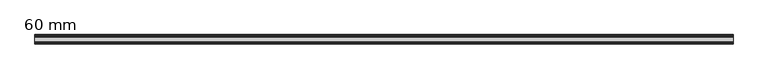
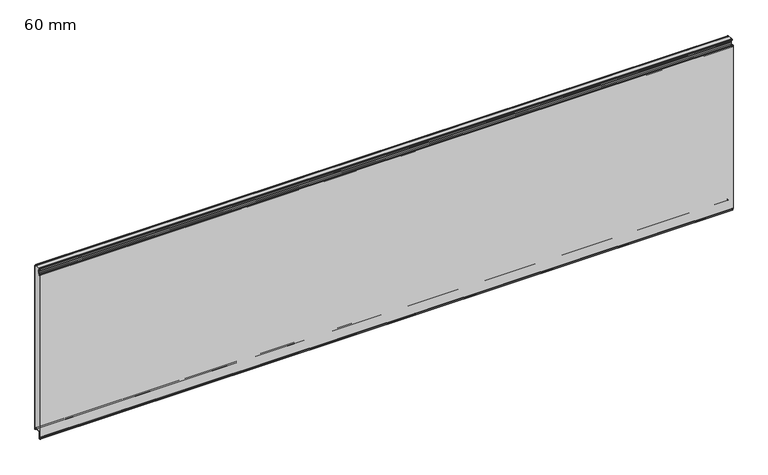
"""IFC4 building model written with IfcOpenShell, lengths in millimetres: plate geometry, HIANSA PANEL - H20.F05.004-HFM-PANELES DE FACHADA HOR - PANEL LISO - Panel de Muro Cortina : 60 mm."""

from ifc_helpers import new_model, si_unit, point, frame, frame_2d, origin, place, context, project, spatial, polyline, circle_curve, trimmed, segment, composite_curve, outline, extrude, source, transform, mapped, element, save


def plate_60_mm_d0acd0f5(model_context):
    return source(origin(), model_context, "Body", "SweptSolid", [
        extrude(outline(polyline([(-43.7988607, 1122.7800953), (-43.0080811, 1123.2810466), (-13.7002601, 1123.2810466), (-12.8994274, 1122.7800953), (-43.7988607, 1122.7800953)])), frame((-2200.0, 0.0, 0.0), z_axis=(1.0, 0.0, 0.0), x_axis=(0.0, 1.0, 0.0)), (0.0, 0.0, 1.0), 4400.0),
        extrude(outline(polyline([(-43.772834, 25.3210467), (-12.920579, 25.3210467), (-13.7002597, 24.8210465), (-43.011032, 24.8210465), (-43.772834, 25.3210467)])), frame((-2200.0, 0.0, 0.0), z_axis=(1.0, 0.0, 0.0), x_axis=(0.0, 1.0, 0.0)), (0.0, 0.0, 1.0), 4400.0),
        extrude(outline(composite_curve([segment(polyline([(-59.9990488, 1086.1667807), (-59.3593999, 1088.7253764)]), True, "CONTINUOUS"), segment(trimmed(circle_curve(frame_2d((-57.5161291, 1088.2645587)), 1.9), [point((-59.3593999, 1088.7253764))], [point((-57.5161291, 1090.1645587))], False, "CARTESIAN"), True, "CONTINUOUS"), segment(polyline([(-57.5161291, 1090.1645587), (-55.3767084, 1090.1645587)]), True, "CONTINUOUS"), segment(trimmed(circle_curve(frame_2d((-55.3767084, 1089.1645587)), 1.0), [point((-55.3767084, 1090.1645587))], [point((-54.3767084, 1089.1645587))], False, "CARTESIAN"), True, "CONTINUOUS"), segment(polyline([(-54.3767084, 1089.1645587), (-54.3767084, 1079.2490488)]), True, "CONTINUOUS"), segment(trimmed(circle_curve(frame_2d((-53.3767084, 1079.2490488)), 1.0), [point((-54.3767084, 1079.2490488))], [point((-53.3767084, 1078.2490488))], True, "CARTESIAN"), True, "CONTINUOUS"), segment(polyline([(-53.3767084, 1078.2490488), (-49.1267084, 1078.2490488)]), True, "CONTINUOUS"), segment(trimmed(circle_curve(frame_2d((-49.1267084, 1079.2490488)), 1.0), [point((-49.1267084, 1078.2490488))], [point((-48.1267084, 1079.2490488))], True, "CARTESIAN"), True, "CONTINUOUS"), segment(polyline([(-48.1267084, 1079.2490488), (-48.1267084, 1082.1003519)]), True, "CONTINUOUS"), segment(trimmed(circle_curve(frame_2d((-46.1267084, 1082.1003519)), 2.0), [point((-48.1267084, 1082.1003519))], [point((-47.2738613, 1083.738656))], False, "CARTESIAN"), True, "CONTINUOUS"), segment(polyline([(-47.2738613, 1083.738656), (-41.2163437, 1087.9801754)]), True, "CONTINUOUS"), segment(trimmed(circle_curve(frame_2d((-42.0767084, 1089.2089035)), 1.5), [point((-41.2163437, 1087.9801754))], [point((-40.5767084, 1089.2089035))], True, "CARTESIAN"), True, "CONTINUOUS"), segment(polyline([(-40.5767084, 1089.2089035), (-40.5767084, 1098.4402031), (-39.6767084, 1099.9990488), (-40.5767084, 1101.5578945), (-40.5767084, 1110.7891941)]), True, "CONTINUOUS"), segment(trimmed(circle_curve(frame_2d((-42.0767084, 1110.7891941)), 1.5), [point((-40.5767084, 1110.7891941))], [point((-41.2163437, 1112.0179221))], True, "CARTESIAN"), True, "CONTINUOUS"), segment(polyline([(-41.2163437, 1112.0179221), (-47.2738613, 1116.2594416)]), True, "CONTINUOUS"), segment(trimmed(circle_curve(frame_2d((-46.1267084, 1117.8977457)), 2.0), [point((-47.2738613, 1116.2594416))], [point((-48.1267084, 1117.8977457))], False, "CARTESIAN"), True, "CONTINUOUS"), segment(polyline([(-48.1267084, 1117.8977457), (-48.1267084, 1121.2800953)]), True, "CONTINUOUS"), segment(trimmed(circle_curve(frame_2d((-46.1267084, 1121.2800953)), 2.0), [point((-48.1267084, 1121.2800953))], [point((-46.1267084, 1123.2800953))], False, "CARTESIAN"), True, "CONTINUOUS"), segment(polyline([(-46.1267084, 1123.2800953), (-43.0095828, 1123.2800953), (-43.7988607, 1122.7800953), (-46.1267084, 1122.7800953)]), True, "CONTINUOUS"), segment(trimmed(circle_curve(frame_2d((-46.1267084, 1121.2800953)), 1.5), [point((-46.1267084, 1122.7800953))], [point((-47.6267084, 1121.2800953))], True, "CARTESIAN"), True, "CONTINUOUS"), segment(polyline([(-47.6267084, 1121.2800953), (-47.6267084, 1117.8977457)]), True, "CONTINUOUS"), segment(trimmed(circle_curve(frame_2d((-46.1267084, 1117.8977457)), 1.5), [point((-47.6267084, 1117.8977457))], [point((-46.987073, 1116.6690176))], True, "CARTESIAN"), True, "CONTINUOUS"), segment(polyline([(-46.987073, 1116.6690176), (-40.9295555, 1112.4274982)]), True, "CONTINUOUS"), segment(trimmed(circle_curve(frame_2d((-42.0767084, 1110.7891941)), 2.0), [point((-40.9295555, 1112.4274982))], [point((-40.0767084, 1110.7891941))], False, "CARTESIAN"), True, "CONTINUOUS"), segment(polyline([(-40.0767084, 1110.7891941), (-40.0767084, 1101.6918691), (-39.3880333, 1100.4990488)]), True, "CONTINUOUS"), segment(trimmed(circle_curve(frame_2d((-40.2540587, 1099.9990488)), 1.0), [point((-39.3880333, 1100.4990488))], [point((-39.3880333, 1099.4990488))], False, "CARTESIAN"), True, "CONTINUOUS"), segment(polyline([(-39.3880333, 1099.4990488), (-40.0767084, 1098.3062285), (-40.0767084, 1089.2089035)]), True, "CONTINUOUS"), segment(trimmed(circle_curve(frame_2d((-42.0767084, 1089.2089035)), 2.0), [point((-40.0767084, 1089.2089035))], [point((-40.9295555, 1087.5705994))], False, "CARTESIAN"), True, "CONTINUOUS"), segment(polyline([(-40.9295555, 1087.5705994), (-46.987073, 1083.32908)]), True, "CONTINUOUS"), segment(trimmed(circle_curve(frame_2d((-46.1267084, 1082.1003519)), 1.5), [point((-46.987073, 1083.32908))], [point((-47.6267084, 1082.1003519))], True, "CARTESIAN"), True, "CONTINUOUS"), segment(polyline([(-47.6267084, 1082.1003519), (-47.6267084, 1079.2490488)]), True, "CONTINUOUS"), segment(trimmed(circle_curve(frame_2d((-49.1267084, 1079.2490488)), 1.5), [point((-47.6267084, 1079.2490488))], [point((-49.1267084, 1077.7490488))], False, "CARTESIAN"), True, "CONTINUOUS"), segment(polyline([(-49.1267084, 1077.7490488), (-53.3767084, 1077.7490488)]), True, "CONTINUOUS"), segment(trimmed(circle_curve(frame_2d((-53.3767084, 1079.2490488)), 1.5), [point((-53.3767084, 1077.7490488))], [point((-54.8767084, 1079.2490488))], False, "CARTESIAN"), True, "CONTINUOUS"), segment(polyline([(-54.8767084, 1079.2490488), (-54.8767084, 1089.6645587), (-57.5161291, 1089.6645587)]), True, "CONTINUOUS"), segment(trimmed(circle_curve(frame_2d((-57.5161291, 1088.2645587)), 1.4), [point((-57.5161291, 1089.6645587))], [point((-58.8743286, 1088.6041086))], True, "CARTESIAN"), True, "CONTINUOUS"), segment(polyline([(-58.8743286, 1088.6041086), (-59.4990488, 1086.1052279), (-59.4990488, -5.7761105), (-58.8741312, -8.2757808)]), True, "CONTINUOUS"), segment(trimmed(circle_curve(frame_2d((-57.5169431, -7.9364838)), 1.3989577), [point((-58.8741312, -8.2757808))], [point((-57.5169431, -9.3354415))], True, "CARTESIAN"), True, "CONTINUOUS"), segment(polyline([(-57.5169431, -9.3354415), (-55.1267084, -9.3354413)]), True, "CONTINUOUS"), segment(trimmed(circle_curve(frame_2d((-55.1267084, -10.8354413)), 1.5), [point((-55.1267084, -9.3354413))], [point((-53.6267084, -10.8354413))], False, "CARTESIAN"), True, "CONTINUOUS"), segment(polyline([(-53.6267084, -10.8354413), (-53.6267084, -20.7509512), (-48.8767084, -20.7509512), (-48.8767084, 22.7800953)]), True, "CONTINUOUS"), segment(trimmed(circle_curve(frame_2d((-46.3367084, 22.7800953)), 2.54), [point((-48.8767084, 22.7800953))], [point((-46.3367084, 25.3200953))], False, "CARTESIAN"), True, "CONTINUOUS"), segment(polyline([(-46.3367084, 25.3200953), (-43.7713844, 25.3200953), (-43.0095828, 24.8200953), (-46.3367084, 24.8200953)]), True, "CONTINUOUS"), segment(trimmed(circle_curve(frame_2d((-46.3367084, 22.7800953)), 2.04), [point((-46.3367084, 24.8200953))], [point((-48.3767084, 22.7800953))], True, "CARTESIAN"), True, "CONTINUOUS"), segment(polyline([(-48.3767084, 22.7800953), (-48.3767084, -20.2509512)]), True, "CONTINUOUS"), segment(trimmed(circle_curve(frame_2d((-49.3767084, -20.2509512)), 1.0), [point((-48.3767084, -20.2509512))], [point((-49.3767084, -21.2509512))], False, "CARTESIAN"), True, "CONTINUOUS"), segment(polyline([(-49.3767084, -21.2509512), (-53.1267084, -21.2509512)]), True, "CONTINUOUS"), segment(trimmed(circle_curve(frame_2d((-53.1267084, -20.2509512)), 1.0), [point((-53.1267084, -21.2509512))], [point((-54.1267084, -20.2509512))], False, "CARTESIAN"), True, "CONTINUOUS"), segment(polyline([(-54.1267084, -20.2509512), (-54.1267084, -10.8354413)]), True, "CONTINUOUS"), segment(trimmed(circle_curve(frame_2d((-55.1267084, -10.8354413)), 1.0), [point((-54.1267084, -10.8354413))], [point((-55.1267084, -9.8354413))], True, "CARTESIAN"), True, "CONTINUOUS"), segment(polyline([(-55.1267084, -9.8354413), (-57.5161291, -9.8354413)]), True, "CONTINUOUS"), segment(trimmed(circle_curve(frame_2d((-57.5161291, -7.9354413)), 1.9), [point((-57.5161291, -9.8354413))], [point((-59.3593999, -8.396259))], False, "CARTESIAN"), True, "CONTINUOUS"), segment(polyline([(-59.3593999, -8.396259), (-59.9990488, -5.8376633), (-59.9990488, 1086.1667807)]), True, "CONTINUOUS")], self_intersect=False)), frame((-2200.0, 0.0, 0.0), z_axis=(1.0, 0.0, 0.0), x_axis=(0.0, 1.0, 0.0)), (0.0, 0.0, 1.0), 4400.0),
        extrude(outline(composite_curve([segment(polyline([(-59.4927405, -5.8041988), (-59.4927405, 1086.1352189), (-58.8752803, 1088.6050599)]), True, "CONTINUOUS"), segment(trimmed(circle_curve(frame_2d((-57.5170808, 1088.26551)), 1.4), [point((-58.8752803, 1088.6050599))], [point((-57.5170808, 1089.66551))], False, "CARTESIAN"), True, "CONTINUOUS"), segment(polyline([(-57.5170808, 1089.66551), (-54.8776601, 1089.66551), (-54.8776601, 1079.2500001)]), True, "CONTINUOUS"), segment(trimmed(circle_curve(frame_2d((-53.3776601, 1079.2500001)), 1.5), [point((-54.8776601, 1079.2500001))], [point((-53.3776601, 1077.7500001))], True, "CARTESIAN"), True, "CONTINUOUS"), segment(polyline([(-53.3776601, 1077.7500001), (-49.1276601, 1077.7500001)]), True, "CONTINUOUS"), segment(trimmed(circle_curve(frame_2d((-49.1276601, 1079.2500001)), 1.5), [point((-49.1276601, 1077.7500001))], [point((-47.6276601, 1079.2500001))], True, "CARTESIAN"), True, "CONTINUOUS"), segment(polyline([(-47.6276601, 1079.2500001), (-47.6276601, 1082.1013032)]), True, "CONTINUOUS"), segment(trimmed(circle_curve(frame_2d((-46.1276601, 1082.1013032)), 1.5), [point((-47.6276601, 1082.1013032))], [point((-46.9880247, 1083.3300313))], False, "CARTESIAN"), True, "CONTINUOUS"), segment(polyline([(-46.9880247, 1083.3300313), (-40.9305072, 1087.5715507)]), True, "CONTINUOUS"), segment(trimmed(circle_curve(frame_2d((-42.0776601, 1089.2098548)), 2.0), [point((-40.9305072, 1087.5715507))], [point((-40.0776601, 1089.2098548))], True, "CARTESIAN"), True, "CONTINUOUS"), segment(polyline([(-40.0776601, 1089.2098548), (-40.0776601, 1098.3071798), (-39.3889849, 1099.5000001)]), True, "CONTINUOUS"), segment(trimmed(circle_curve(frame_2d((-40.2550103, 1100.0000001)), 1.0), [point((-39.3889849, 1099.5000001))], [point((-39.3889849, 1100.5000001))], True, "CARTESIAN"), True, "CONTINUOUS"), segment(polyline([(-39.3889849, 1100.5000001), (-40.0776601, 1101.6928204), (-40.0776601, 1110.7901454)]), True, "CONTINUOUS"), segment(trimmed(circle_curve(frame_2d((-42.0776601, 1110.7901454)), 2.0), [point((-40.0776601, 1110.7901454))], [point((-40.9305072, 1112.4284495))], True, "CARTESIAN"), True, "CONTINUOUS"), segment(polyline([(-40.9305072, 1112.4284495), (-46.9880247, 1116.6699689)]), True, "CONTINUOUS"), segment(trimmed(circle_curve(frame_2d((-46.1276601, 1117.898697)), 1.5), [point((-46.9880247, 1116.6699689))], [point((-47.6276601, 1117.898697))], False, "CARTESIAN"), True, "CONTINUOUS"), segment(polyline([(-47.6276601, 1117.898697), (-47.6276601, 1121.2810466)]), True, "CONTINUOUS"), segment(trimmed(circle_curve(frame_2d((-46.1276601, 1121.2810466)), 1.5), [point((-47.6276601, 1121.2810466))], [point((-46.1276601, 1122.7810466))], False, "CARTESIAN"), True, "CONTINUOUS"), segment(polyline([(-46.1276601, 1122.7810466), (-7.7500005, 1122.7810466)]), True, "CONTINUOUS"), segment(trimmed(circle_curve(frame_2d((-7.7500005, 1121.7810466)), 1.0), [point((-7.7500005, 1122.7810466))], [point((-6.7500005, 1121.7810466))], False, "CARTESIAN"), True, "CONTINUOUS"), segment(polyline([(-6.7500005, 1121.7810466), (-6.7500005, 1115.631732)]), True, "CONTINUOUS"), segment(trimmed(circle_curve(frame_2d((-4.7460005, 1115.631732)), 2.004), [point((-6.7500005, 1115.631732))], [point((-4.7460005, 1113.627732))], True, "CARTESIAN"), True, "CONTINUOUS"), segment(polyline([(-4.7460005, 1113.627732), (-1.5, 1113.627732)]), True, "CONTINUOUS"), segment(trimmed(circle_curve(frame_2d((-1.5, 1112.627732)), 1.0), [point((-1.5, 1113.627732))], [point((-0.5, 1112.627732))], False, "CARTESIAN"), True, "CONTINUOUS"), segment(polyline([(-0.5, 1112.627732), (-0.5, 1087.7488722), (-1.5000005, 1084.7488708), (-1.5000005, 1044.5865932), (-0.5000005, 1041.5865932), (-0.5000005, 996.7488708), (-1.5000005, 993.7488708), (-1.5000005, 953.5865932), (-0.5000005, 950.5865932), (-0.5000005, 905.7488708), (-1.5000005, 902.7488708), (-1.5000005, 862.5865932), (-0.5000005, 859.5865932), (-0.5000005, 814.7488708), (-1.5000005, 811.7488708), (-1.5000005, 771.5865932), (-0.5000005, 768.5865932), (-0.5000005, 723.7488708), (-1.5000005, 720.7488708), (-1.5000005, 680.5865932), (-0.5000005, 677.5865932), (-0.5000005, 632.7488708), (-1.5000005, 629.7488708), (-1.5000005, 589.5865932), (-0.5000005, 586.5865932), (-0.5000005, 541.7488708), (-1.5000005, 538.7488708), (-1.5000005, 498.5865932), (-0.5000005, 495.5865932), (-0.5000005, 450.7488708), (-1.5000005, 447.7488708), (-1.5000005, 407.5865932), (-0.5000005, 404.5865932), (-0.5000005, 359.7488708), (-1.5000005, 356.7488708), (-1.5000005, 316.5865932), (-0.5000005, 313.5865932), (-0.5000005, 268.7488708), (-1.5000005, 265.7488708), (-1.5000005, 225.5865932), (-0.5000005, 222.5865932), (-0.5000005, 177.7488708), (-1.5000005, 174.7488708), (-1.5000005, 134.5865932), (-0.5000005, 131.5865932), (-0.5000005, 86.7488708), (-1.5000005, 83.7488708), (-1.5000005, 43.5865932), (-0.5, 40.5865932), (-0.5, 15.6677319)]), True, "CONTINUOUS"), segment(trimmed(circle_curve(frame_2d((-1.4999997, 15.6677319)), 0.9999997), [point((-0.5, 15.6677319))], [point((-1.4999977, 14.6677322))], False, "CARTESIAN"), True, "CONTINUOUS"), segment(polyline([(-1.4999977, 14.6677322), (-4.4999978, 14.6677261)]), True, "CONTINUOUS"), segment(trimmed(circle_curve(frame_2d((-4.4999998, 15.6677321)), 1.0000061), [point((-4.4999978, 14.6677261))], [point((-5.5000059, 15.6677321))], False, "CARTESIAN"), True, "CONTINUOUS"), segment(polyline([(-5.5000059, 15.6677321), (-5.5000059, 23.2810466)]), True, "CONTINUOUS"), segment(trimmed(circle_curve(frame_2d((-7.540006, 23.2810466)), 2.0400002), [point((-5.5000059, 23.2810466))], [point((-7.540006, 25.3210467))], True, "CARTESIAN"), True, "CONTINUOUS"), segment(polyline([(-7.540006, 25.3210467), (-46.3376599, 25.3210467)]), True, "CONTINUOUS"), segment(trimmed(circle_curve(frame_2d((-46.3376599, 22.7810466)), 2.5400001), [point((-46.3376599, 25.3210467))], [point((-48.8776601, 22.7810466))], True, "CARTESIAN"), True, "CONTINUOUS"), segment(polyline([(-48.8776601, 22.7810466), (-48.8776601, -20.7499999), (-53.6276601, -20.7499999), (-53.6276601, -10.83449)]), True, "CONTINUOUS"), segment(trimmed(circle_curve(frame_2d((-55.1276601, -10.83449)), 1.5), [point((-53.6276601, -10.83449))], [point((-55.1276601, -9.33449))], True, "CARTESIAN"), True, "CONTINUOUS"), segment(polyline([(-55.1276601, -9.33449), (-57.5178947, -9.33449)]), True, "CONTINUOUS"), segment(trimmed(circle_curve(frame_2d((-57.5178947, -7.9355324)), 1.3989576), [point((-57.5178947, -9.33449))], [point((-58.8750829, -8.2748295))], False, "CARTESIAN"), True, "CONTINUOUS"), segment(polyline([(-58.8750829, -8.2748295), (-59.4927405, -5.8041988)]), True, "CONTINUOUS")], self_intersect=False)), frame((-2200.0, 0.0, 0.0), z_axis=(1.0, 0.0, 0.0), x_axis=(0.0, 1.0, 0.0)), (0.0, 0.0, 1.0), 4400.0),
        extrude(outline(composite_curve([segment(polyline([(-13.7002597, 24.8210465), (-12.9205793, 25.3210465), (-7.5400057, 25.3210465)]), True, "CONTINUOUS"), segment(trimmed(circle_curve(frame_2d((-7.5400057, 23.2810465)), 2.04), [point((-7.5400057, 25.3210465))], [point((-5.5000057, 23.2810465))], False, "CARTESIAN"), True, "CONTINUOUS"), segment(polyline([(-5.5000057, 23.2810465), (-5.5000057, 15.6677319)]), True, "CONTINUOUS"), segment(trimmed(circle_curve(frame_2d((-4.5, 15.6677319)), 1.0000057), [point((-5.5000057, 15.6677319))], [point((-4.4999981, 14.6677262))], True, "CARTESIAN"), True, "CONTINUOUS"), segment(polyline([(-4.4999981, 14.6677262), (-1.4999981, 14.6677319)]), True, "CONTINUOUS"), segment(trimmed(circle_curve(frame_2d((-1.5, 15.6677319)), 1.0), [point((-1.4999981, 14.6677319))], [point((-0.5, 15.6677319))], True, "CARTESIAN"), True, "CONTINUOUS"), segment(polyline([(-0.5, 15.6677319), (-0.5, 40.5865931), (-1.5, 43.5865931), (-1.5, 83.7488708), (-0.5, 86.7488708), (-0.5, 131.5865931), (-1.5, 134.5865931), (-1.5, 174.7488708), (-0.5, 177.7488708), (-0.5, 222.5865931), (-1.5, 225.5865931), (-1.5, 265.7488708), (-0.5, 268.7488708), (-0.5, 313.5865931), (-1.5, 316.5865931), (-1.5, 356.7488708), (-0.5, 359.7488708), (-0.5, 404.5865931), (-1.5, 407.5865931), (-1.5, 447.7488708), (-0.5, 450.7488708), (-0.5, 495.5865931), (-1.5, 498.5865931), (-1.5, 538.7488708), (-0.5, 541.7488708), (-0.5, 586.5865931), (-1.5, 589.5865931), (-1.5, 629.7488708), (-0.5, 632.7488708), (-0.5, 677.5865931), (-1.5, 680.5865931), (-1.5, 720.7488708), (-0.5, 723.7488708), (-0.5, 768.5865931), (-1.5, 771.5865931), (-1.5, 811.7488708), (-0.5, 814.7488708), (-0.5, 859.5865931), (-1.5, 862.5865931), (-1.5, 902.7488708), (-0.5, 905.7488708), (-0.5, 950.5865931), (-1.5, 953.5865931), (-1.5, 993.7488708), (-0.5, 996.7488708), (-0.5, 1041.5865931), (-1.5, 1044.5865931), (-1.5, 1084.7488708), (-0.5, 1087.7488708), (-0.5, 1112.6277319)]), True, "CONTINUOUS"), segment(trimmed(circle_curve(frame_2d((-1.5, 1112.6277319)), 1.0), [point((-0.5, 1112.6277319))], [point((-1.5, 1113.6277319))], True, "CARTESIAN"), True, "CONTINUOUS"), segment(polyline([(-1.5, 1113.6277319), (-4.746, 1113.6277319)]), True, "CONTINUOUS"), segment(trimmed(circle_curve(frame_2d((-4.746, 1115.6317319)), 2.004), [point((-4.746, 1113.6277319))], [point((-6.75, 1115.6317319))], False, "CARTESIAN"), True, "CONTINUOUS"), segment(polyline([(-6.75, 1115.6317319), (-6.75, 1121.7810465)]), True, "CONTINUOUS"), segment(trimmed(circle_curve(frame_2d((-7.75, 1121.7810465)), 1.0), [point((-6.75, 1121.7810465))], [point((-7.75, 1122.7810465))], True, "CARTESIAN"), True, "CONTINUOUS"), segment(polyline([(-7.75, 1122.7810465), (-12.9009477, 1122.7810465), (-13.7002597, 1123.2810465), (-7.7500057, 1123.2810465)]), True, "CONTINUOUS"), segment(trimmed(circle_curve(frame_2d((-7.7500057, 1121.7810465)), 1.5), [point((-7.7500057, 1123.2810465))], [point((-6.2500057, 1121.7810465))], False, "CARTESIAN"), True, "CONTINUOUS"), segment(polyline([(-6.2500057, 1121.7810465), (-6.2500057, 1115.631727)]), True, "CONTINUOUS"), segment(trimmed(circle_curve(frame_2d((-4.7460057, 1115.631727)), 1.504), [point((-6.2500057, 1115.631727))], [point((-4.7460034, 1114.127727))], True, "CARTESIAN"), True, "CONTINUOUS"), segment(polyline([(-4.7460034, 1114.127727), (-1.5000023, 1114.1277319)]), True, "CONTINUOUS"), segment(trimmed(circle_curve(frame_2d((-1.5, 1112.6277319)), 1.5), [point((-1.5000023, 1114.1277319))], [point((0.0, 1112.6277319))], False, "CARTESIAN"), True, "CONTINUOUS"), segment(polyline([(0.0, 1112.6277319), (0.0, 1087.6677319), (-1.0, 1084.6677319), (-1.0, 1044.6677319), (0.0, 1041.6677319), (0.0, 996.6677319), (-1.0, 993.6677319), (-1.0, 953.6677319), (0.0, 950.6677319), (0.0, 905.6677319), (-1.0, 902.6677319), (-1.0, 862.6677319), (0.0, 859.6677319), (0.0, 814.6677319), (-1.0, 811.6677319), (-1.0, 771.6677319), (0.0, 768.6677319), (0.0, 723.6677319), (-1.0, 720.6677319), (-1.0, 680.6677319), (0.0, 677.6677319), (0.0, 632.6677319), (-1.0, 629.6677319), (-1.0, 589.6677319), (0.0, 586.6677319), (0.0, 541.6677319), (-1.0, 538.6677319), (-1.0, 498.6677319), (0.0, 495.6677319), (0.0, 450.6677319), (-1.0, 447.6677319), (-1.0, 407.6677319), (0.0, 404.6677319), (0.0, 359.6677319), (-1.0, 356.6677319), (-1.0, 316.6677319), (0.0, 313.6677319), (0.0, 268.6677319), (-1.0, 265.6677319), (-1.0, 225.6677319), (0.0, 222.6677319), (0.0, 177.6677319), (-1.0, 174.6677319), (-1.0, 134.6677319), (0.0, 131.6677319), (0.0, 86.6677319), (-1.0, 83.6677319), (-1.0, 43.6677319), (0.0, 40.6677319), (0.0, 15.6677319)]), True, "CONTINUOUS"), segment(trimmed(circle_curve(frame_2d((-1.5, 15.6677319)), 1.5), [point((0.0, 15.6677319))], [point((-1.5, 14.1677319))], False, "CARTESIAN"), True, "CONTINUOUS"), segment(polyline([(-1.5, 14.1677319), (-4.5, 14.1677319)]), True, "CONTINUOUS"), segment(trimmed(circle_curve(frame_2d((-4.5, 15.6677319)), 1.5), [point((-4.5, 14.1677319))], [point((-6.0, 15.6677319))], False, "CARTESIAN"), True, "CONTINUOUS"), segment(polyline([(-6.0, 15.6677319), (-6.0, 23.2810465)]), True, "CONTINUOUS"), segment(trimmed(circle_curve(frame_2d((-7.54, 23.2810465)), 1.54), [point((-6.0, 23.2810465))], [point((-7.54, 24.8210465))], True, "CARTESIAN"), True, "CONTINUOUS"), segment(polyline([(-7.54, 24.8210465), (-13.7002597, 24.8210465)]), True, "CONTINUOUS")], self_intersect=False)), frame((-2200.0, 0.0, 0.0), z_axis=(1.0, 0.0, 0.0), x_axis=(0.0, 1.0, 0.0)), (0.0, 0.0, 1.0), 4400.0),
    ])


if __name__ == "__main__":
    model = new_model("IFC4")
    model_context = context("Model", 3, world=origin())
    ifc_project = project(units=[si_unit("LENGTHUNIT", "METRE", prefix="MILLI")], contexts=[model_context])
    site = spatial("IfcSite", under=ifc_project)
    building = spatial("IfcBuilding", under=site)
    placement = place(None, origin())
    plate_60_mm_shape = plate_60_mm_d0acd0f5(model_context)
    element("IfcPlate", 1, ObjectType="HIANSA PANEL - H20.F05.004-HFM-PANELES DE FACHADA HOR - PANEL LISO - Panel de Muro Cortina : 60 mm", at=placement, inside=building, context=model_context, shape_type="MappedRepresentation", body=[
        mapped(plate_60_mm_shape, transform((0.0, 0.0, 0.0), x_axis=(1.0, 0.0, 0.0), y_axis=(0.0, 1.0, 0.0), z_axis=(0.0, 0.0, 1.0))),
    ])
    save(model, "model.ifc")
